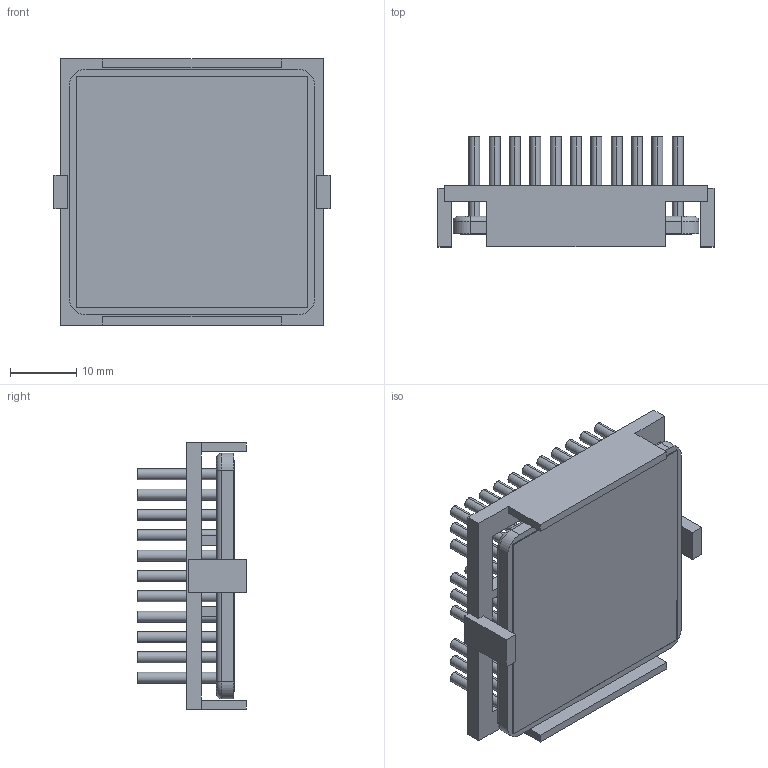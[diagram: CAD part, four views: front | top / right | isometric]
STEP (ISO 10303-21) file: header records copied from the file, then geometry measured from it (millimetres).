
FILE_DESCRIPTION (( 'STEP AP214' ), '1' );
FILE_NAME ('INM37.5002-15P-2.6BU.STEP', '2023-02-21T15:43:12', ( '' ), ( '' ), 'SwSTEP 2.0', 'SolidWorks 2020', '' );
FILE_SCHEMA (( 'AUTOMOTIVE_DESIGN' ));
Length unit declared in the file: inch
Products named in the file (1): INM37.5002-15P-2.6BU
Bounding box: 41.7 x 16.6 x 40.2 mm (x, y, z)
Volume: 8480.5 mm3; surface area: 15478.2 mm2
Topology: 3 solids, 3 shells, 417 faces, 886 edges, 588 vertices
Faces by surface type: cylinder 234, plane 179, torus 4
Entity records: 16915 total; most frequent: DIRECTION 2194, CARTESIAN_POINT 1892, ORIENTED_EDGE 1772, AXIS2_PLACEMENT_3D 890, EDGE_CURVE 886, VERTEX_POINT 588, EDGE_LOOP 532, CIRCLE 472
